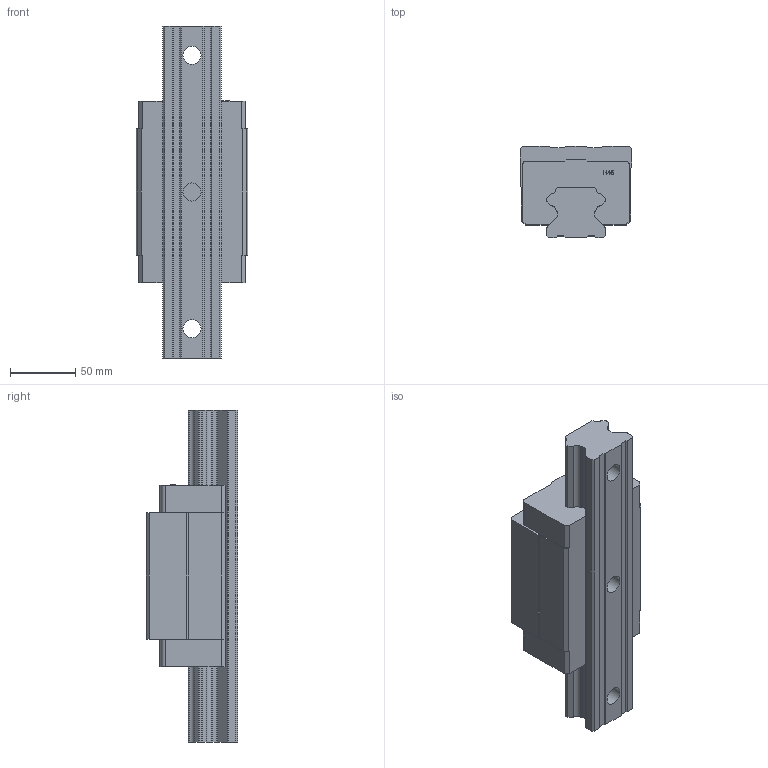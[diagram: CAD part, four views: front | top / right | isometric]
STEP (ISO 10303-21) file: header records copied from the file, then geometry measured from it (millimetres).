
FILE_DESCRIPTION(/* description */ (''),/* implementation_level */ '2;1');
FILE_NAME(/* name */ 'HGH45CA.stp',/* time_stamp */ '2021-05-25T20:52:35+08:00',/* author */ (''),/* organization */ (''),/* preprocessor_version */ 'ST-DEVELOPER v15',/* originating_system */ 'SIEMENS PLM Software NX 8.5',/* authorisation */ '');
FILE_SCHEMA (('CONFIG_CONTROL_DESIGN'));
Length unit declared in the file: millimetre
Products named in the file (1): _model1
Bounding box: 86 x 70 x 255 mm (x, y, z)
Volume: 855283.6 mm3; surface area: 109806.9 mm2
Topology: 2 solids, 2 shells, 179 faces, 496 edges, 332 vertices
Faces by surface type: plane 132, cylinder 40, extrusion 7
Full cylindrical faces by diameter (mm): 10 x4, 14 x3, 20 x3
Entity records: 5839 total; most frequent: CARTESIAN_POINT 1299, ORIENTED_EDGE 964, DIRECTION 835, EDGE_CURVE 482, VECTOR 329, VERTEX_POINT 328, LINE 322, AXIS2_PLACEMENT_3D 253
